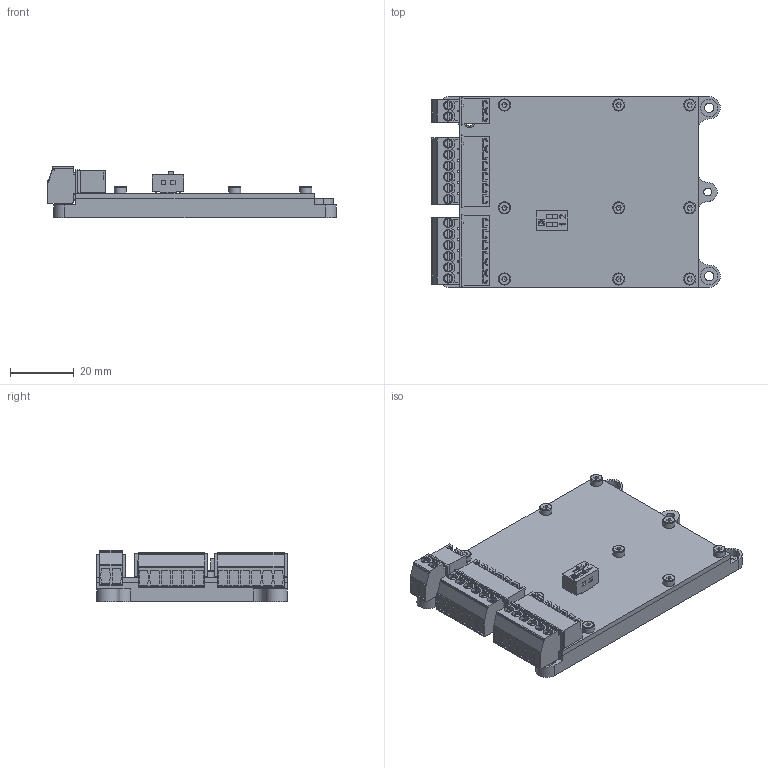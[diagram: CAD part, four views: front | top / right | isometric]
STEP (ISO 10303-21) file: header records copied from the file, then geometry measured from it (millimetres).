
FILE_DESCRIPTION(/* description */ ('STEP AP242','CAx-IF Rec.Pracs.---Representation and Presentation of Product Manufacturing Information (PMI)---4.0---2014-10-13','CAx-IF Rec.Pracs.---3D Tessellated Geometry---0.4---2014-09-14','2;1'),/* implementation_level */ '2;1');
FILE_NAME(/* name */ '6788f4e6a83d3e71e8c08b72',/* time_stamp */ '2025-01-16T12:00:53Z',/* author */ (''),/* organization */ (''),/* preprocessor_version */ 'ST-DEVELOPER v20',/* originating_system */ 'ONSHAPE BY PTC INC, 1.192',/* authorisation */ ' ');
FILE_SCHEMA (('AP242_MANAGED_MODEL_BASED_3D_ENGINEERING_MIM_LF { 1 0 10303 442 1 1 4 }'));
Products named in the file (1153): HTC200-ASSEMBLY; C1210_14; C1210_41; C0805_11; R0603_24; C1210_20; R0603_39; R0603_58; R0603_93; C1210_25; C0603_59; C1210_29; R0603_105; C2917_TANT_3; C0603_7; KRL3216T4_1; R0603_59; C1210_19; R0603_74; UDFN8; C0603_35; R0603_37; R0603_99; R0603_32; R0603_68; User_Library-QFN8_QFN-8-2_5; body_1; pin_1; C0603_62; R0603_12; SOT-23-5_1; QFN48_7x7; C1210_18; pin; Extruded_1; L1206; SOT-23-6; R0603_89; C0603_3; R0603_104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
Assembly tree (1160 placements, depth 2):
  HTC200-ASSEMBLY
    C1210_14
    C1210_41
    C0805_11
    R0603_24
    C1210_20
    R0603_39
    R0603_58
    R0603_93
    C1210_25
    C0603_59
    C1210_29
    R0603_105
    C2917_TANT_3
    C0603_7
    KRL3216T4_1
    R0603_59
    C1210_19
    R0603_74
    UDFN8
    C0603_35
    R0603_37
    R0603_99
    R0603_32
    R0603_68
    User_Library-QFN8_QFN-8-2_5
    body_1
    pin_1
    C0603_62
    R0603_39
    R0603_12
    SOT-23-5_1
    QFN48_7x7
    C1210_18
    pin_1
    R0603_59
    pin
    Extruded_1
    L1206
    SOT-23-6
    R0603_89
    C0603_3
    R0603_104
    C1210_56
    C1210_28
    C0805_11
    R0603_49
    C0603_65
    SOT-323-6
    R0603_81
    R0603_82
    SOT1210_1
    Hex socket head cap screw M2x0.40 x 6  x9
    R0603_57
    418117270902
    QFN48_7x7
    C0603_60
    R0603_94
    User_Library-My-DFN-10-3x2-0.5_13
    SOT-23-6_1
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Bounding box: 90.9 x 60 x 16.12 mm (x, y, z)
Volume: 28756.5 mm3; surface area: 46178.2 mm2
Topology: 1160 solids, 1162 shells, 11670 faces, 26413 edges, 17199 vertices
Faces by surface type: plane 9601, cylinder 1699, sphere 124, torus 107, cone 84, bspline 55
Full cylindrical faces by diameter (mm): 0.207 x5, 0.216 x1, 0.25 x5, 0.3 x4, 0.368 x2, 0.4 x3, 0.443 x2, 0.8 x4, 1.2 x28, 1.472 x1, 1.6 x9, 2 x23, 2.4 x9, 2.5 x3, 2.8 x14, 2.9 x32, 3.5 x2, 3.8 x9, 5.5 x4
Entity records: 350019 total; most frequent: CARTESIAN_POINT 57628, DIRECTION 53771, ORIENTED_EDGE 51264, EDGE_CURVE 25632, LINE 21827, VECTOR 21827, VERTEX_POINT 16858, AXIS2_PLACEMENT_3D 15972
